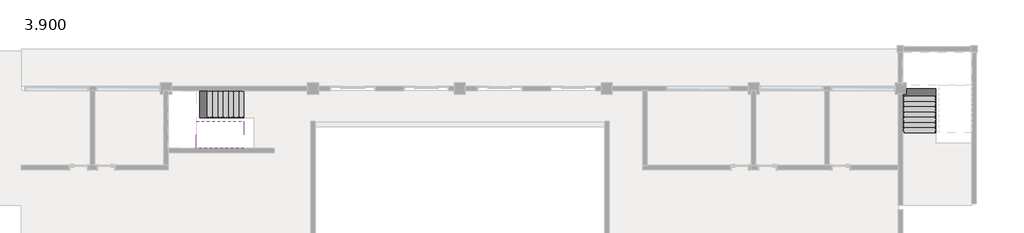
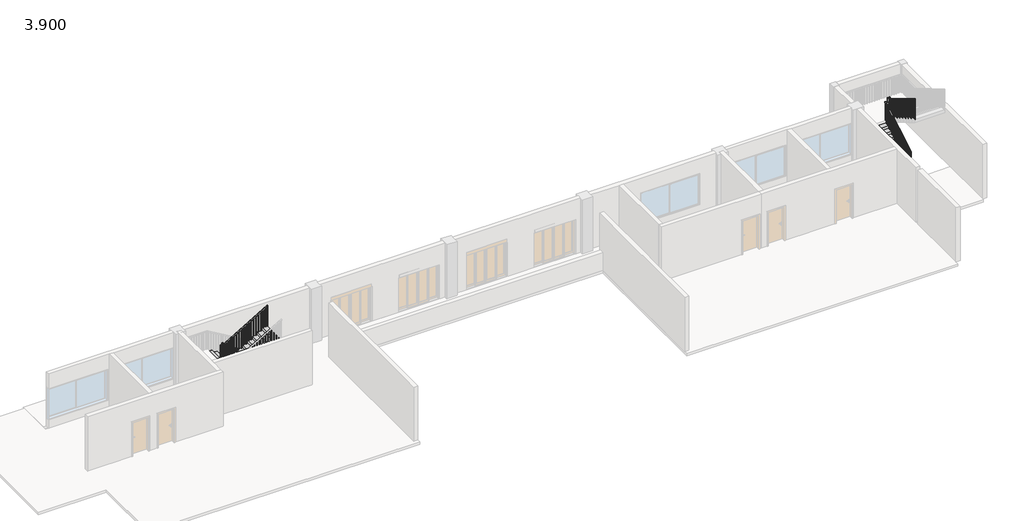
# One storey, part 3 of 4: 3 stair flights, 2 railings.
"""IFC4 building model written with IfcOpenShell, lengths in millimetres."""

from ifc_helpers import new_model, si_unit, frame, origin, place, context, project, spatial, polyline, outline, extrude, faceted_brep, element, save

model = new_model("IFC4")

# Units and contexts
model_context = context("Model", 3, world=origin())
ifc_project = project(units=[si_unit("LENGTHUNIT", "METRE", prefix="MILLI")], contexts=[model_context])

# Site, building, storey
site = spatial("IfcSite", under=ifc_project)
building = spatial("IfcBuilding", under=site)
storey = spatial("IfcBuildingStorey", under=building, Name="3.900", Elevation=3900.0)

# Railings
placement = place(None, origin())
element("IfcRailing", 1, ObjectType="1100mm", at=placement, inside=storey, context=model_context, shape_type="SolidModel", body=[
    faceted_brep([(8272.9890344, 3962.0095817, 5165.0), (8272.9890344, 3962.0095817, 5106.9642857), (8272.9890344, 4012.0095817, 5106.9642857), (8272.9890344, 4012.0095817, 5165.0), (5827.5890344, 3962.0095817, 6606.0392857), (5777.5890344, 3962.0095817, 6577.4678571), (5777.5890344, 4012.0095817, 6577.4678571), (5827.5890344, 4012.0095817, 6606.0392857), (5827.5890344, 3962.0095817, 6650.0), (5777.5890344, 3962.0095817, 6600.0), (5777.5890344, 4012.0095817, 6600.0), (5827.5890344, 4012.0095817, 6650.0), (5752.5890344, 3962.0095817, 6650.0), (5752.5890344, 3962.0095817, 6600.0), (5702.5890344, 4012.0095817, 6600.0), (5702.5890344, 4012.0095817, 6650.0), (5752.5890344, 3887.0095817, 6650.0), (5752.5890344, 3887.0095817, 6600.0), (5702.5890344, 3887.0095817, 6600.0), (5702.5890344, 3887.0095817, 6650.0), (5752.5890344, 3851.2095817, 6650.0), (5752.5890344, 3801.2095817, 6600.0), (5702.5890344, 3801.2095817, 6600.0), (5702.5890344, 3851.2095817, 6650.0), (5752.5890344, 3851.2095817, 6858.9607143), (5752.5890344, 3801.2095817, 6808.9607143), (5702.5890344, 3801.2095817, 6808.9607143), (5702.5890344, 3851.2095817, 6858.9607143), (5752.5890344, 3776.2095817, 6858.9607143), (5752.5890344, 3776.2095817, 6808.9607143), (5702.5890344, 3726.2095817, 6808.9607143), (5702.5890344, 3726.2095817, 6858.9607143), (5827.5890344, 3776.2095817, 6858.9607143), (5841.225398, 3776.2095817, 6808.9607143), (5841.225398, 3726.2095817, 6808.9607143), (5827.5890344, 3726.2095817, 6858.9607143), (8272.9890344, 3776.2095817, 8300.0), (8272.9890344, 3726.2095817, 8300.0), (8272.9890344, 3726.2095817, 8241.9642857), (8272.9890344, 3776.2095817, 8241.9642857)], [[[0, 1, 2, 3]], [[1, 0, 4, 5]], [[2, 1, 5, 6]], [[3, 2, 6, 7]], [[0, 3, 7, 4]], [[5, 4, 8, 9]], [[6, 5, 9, 10]], [[7, 6, 10, 11]], [[4, 7, 11, 8]], [[9, 8, 12, 13]], [[10, 9, 13, 14]], [[11, 10, 14, 15]], [[8, 11, 15, 12]], [[13, 12, 16, 17]], [[14, 13, 17, 18]], [[15, 14, 18, 19]], [[12, 15, 19, 16]], [[17, 16, 20, 21]], [[18, 17, 21, 22]], [[19, 18, 22, 23]], [[16, 19, 23, 20]], [[21, 20, 24, 25]], [[22, 21, 25, 26]], [[23, 22, 26, 27]], [[20, 23, 27, 24]], [[25, 24, 28, 29]], [[26, 25, 29, 30]], [[27, 26, 30, 31]], [[24, 27, 31, 28]], [[29, 28, 32, 33]], [[30, 29, 33, 34]], [[31, 30, 34, 35]], [[28, 31, 35, 32]], [[36, 37, 38, 39]], [[33, 32, 36, 39]], [[34, 33, 39, 38]], [[35, 34, 38, 37]], [[32, 35, 37, 36]]]),
    extrude(outline(polyline([(7035.0, 8165.0890344), (7035.0, 8190.0890344), (8193.1125, 8190.0890344), (8178.3803571, 8165.0890344), (7035.0, 8165.0890344)])), frame((0.0, 3738.7095817, 0.0), z_axis=(0.0, 1.0, 0.0), x_axis=(0.0, 0.0, 1.0)), (0.0, 0.0, 1.0), 25.0),
    extrude(outline(polyline([(7035.0, 8025.0890344), (7035.0, 8050.0890344), (8110.6125, 8050.0890344), (8095.8803571, 8025.0890344), (7035.0, 8025.0890344)])), frame((0.0, 3738.7095817, 0.0), z_axis=(0.0, 1.0, 0.0), x_axis=(0.0, 0.0, 1.0)), (0.0, 0.0, 1.0), 25.0),
    extrude(outline(polyline([(6870.0, 7885.0890344), (6870.0, 7910.0890344), (8028.1125, 7910.0890344), (8013.3803571, 7885.0890344), (6870.0, 7885.0890344)])), frame((0.0, 3738.7095817, 0.0), z_axis=(0.0, 1.0, 0.0), x_axis=(0.0, 0.0, 1.0)), (0.0, 0.0, 1.0), 25.0),
    extrude(outline(polyline([(6870.0, 7745.0890344), (6870.0, 7770.0890344), (7945.6125, 7770.0890344), (7930.8803571, 7745.0890344), (6870.0, 7745.0890344)])), frame((0.0, 3738.7095817, 0.0), z_axis=(0.0, 1.0, 0.0), x_axis=(0.0, 0.0, 1.0)), (0.0, 0.0, 1.0), 25.0),
    extrude(outline(polyline([(6705.0, 7605.0890344), (6705.0, 7630.0890344), (7863.1125, 7630.0890344), (7848.3803571, 7605.0890344), (6705.0, 7605.0890344)])), frame((0.0, 3738.7095817, 0.0), z_axis=(0.0, 1.0, 0.0), x_axis=(0.0, 0.0, 1.0)), (0.0, 0.0, 1.0), 25.0),
    extrude(outline(polyline([(6705.0, 7465.0890344), (6705.0, 7490.0890344), (7780.6125, 7490.0890344), (7765.8803571, 7465.0890344), (6705.0, 7465.0890344)])), frame((0.0, 3738.7095817, 0.0), z_axis=(0.0, 1.0, 0.0), x_axis=(0.0, 0.0, 1.0)), (0.0, 0.0, 1.0), 25.0),
    extrude(outline(polyline([(6540.0, 7325.0890344), (6540.0, 7350.0890344), (7698.1125, 7350.0890344), (7683.3803571, 7325.0890344), (6540.0, 7325.0890344)])), frame((0.0, 3738.7095817, 0.0), z_axis=(0.0, 1.0, 0.0), x_axis=(0.0, 0.0, 1.0)), (0.0, 0.0, 1.0), 25.0),
    extrude(outline(polyline([(6540.0, 7185.0890344), (6540.0, 7210.0890344), (7615.6125, 7210.0890344), (7600.8803571, 7185.0890344), (6540.0, 7185.0890344)])), frame((0.0, 3738.7095817, 0.0), z_axis=(0.0, 1.0, 0.0), x_axis=(0.0, 0.0, 1.0)), (0.0, 0.0, 1.0), 25.0),
    extrude(outline(polyline([(6375.0, 7045.0890344), (6375.0, 7070.0890344), (7533.1125, 7070.0890344), (7518.3803571, 7045.0890344), (6375.0, 7045.0890344)])), frame((0.0, 3738.7095817, 0.0), z_axis=(0.0, 1.0, 0.0), x_axis=(0.0, 0.0, 1.0)), (0.0, 0.0, 1.0), 25.0),
    extrude(outline(polyline([(6375.0, 6905.0890344), (6375.0, 6930.0890344), (7450.6125, 6930.0890344), (7435.8803571, 6905.0890344), (6375.0, 6905.0890344)])), frame((0.0, 3738.7095817, 0.0), z_axis=(0.0, 1.0, 0.0), x_axis=(0.0, 0.0, 1.0)), (0.0, 0.0, 1.0), 25.0),
    extrude(outline(polyline([(6210.0, 6765.0890344), (6210.0, 6790.0890344), (7368.1125, 6790.0890344), (7353.3803571, 6765.0890344), (6210.0, 6765.0890344)])), frame((0.0, 3738.7095817, 0.0), z_axis=(0.0, 1.0, 0.0), x_axis=(0.0, 0.0, 1.0)), (0.0, 0.0, 1.0), 25.0),
    extrude(outline(polyline([(6210.0, 6625.0890344), (6210.0, 6650.0890344), (7285.6125, 6650.0890344), (7270.8803571, 6625.0890344), (6210.0, 6625.0890344)])), frame((0.0, 3738.7095817, 0.0), z_axis=(0.0, 1.0, 0.0), x_axis=(0.0, 0.0, 1.0)), (0.0, 0.0, 1.0), 25.0),
    extrude(outline(polyline([(6045.0, 6485.0890344), (6045.0, 6510.0890344), (7203.1125, 6510.0890344), (7188.3803571, 6485.0890344), (6045.0, 6485.0890344)])), frame((0.0, 3738.7095817, 0.0), z_axis=(0.0, 1.0, 0.0), x_axis=(0.0, 0.0, 1.0)), (0.0, 0.0, 1.0), 25.0),
    extrude(outline(polyline([(6045.0, 6345.0890344), (6045.0, 6370.0890344), (7120.6125, 6370.0890344), (7105.8803571, 6345.0890344), (6045.0, 6345.0890344)])), frame((0.0, 3738.7095817, 0.0), z_axis=(0.0, 1.0, 0.0), x_axis=(0.0, 0.0, 1.0)), (0.0, 0.0, 1.0), 25.0),
    extrude(outline(polyline([(5880.0, 6205.0890344), (5880.0, 6230.0890344), (7038.1125, 6230.0890344), (7023.3803571, 6205.0890344), (5880.0, 6205.0890344)])), frame((0.0, 3738.7095817, 0.0), z_axis=(0.0, 1.0, 0.0), x_axis=(0.0, 0.0, 1.0)), (0.0, 0.0, 1.0), 25.0),
    extrude(outline(polyline([(5880.0, 6065.0890344), (5880.0, 6090.0890344), (6955.6125, 6090.0890344), (6940.8803571, 6065.0890344), (5880.0, 6065.0890344)])), frame((0.0, 3738.7095817, 0.0), z_axis=(0.0, 1.0, 0.0), x_axis=(0.0, 0.0, 1.0)), (0.0, 0.0, 1.0), 25.0),
    extrude(outline(polyline([(5715.0, 5925.0890344), (5715.0, 5950.0890344), (6873.1125, 5950.0890344), (6858.3803571, 5925.0890344), (5715.0, 5925.0890344)])), frame((0.0, 3738.7095817, 0.0), z_axis=(0.0, 1.0, 0.0), x_axis=(0.0, 0.0, 1.0)), (0.0, 0.0, 1.0), 25.0),
    extrude(outline(polyline([(5785.0890344, 3763.7095817), (5810.0890344, 3763.7095817), (5810.0890344, 3738.7095817), (5785.0890344, 3738.7095817), (5785.0890344, 3763.7095817)])), frame((0.0, 0.0, 5715.0), z_axis=(0.0, 0.0, 1.0), x_axis=(1.0, 0.0, 0.0)), (0.0, 0.0, 1.0), 1093.9607143),
    extrude(outline(polyline([(5740.0890344, 3789.5095817), (5740.0890344, 3764.5095817), (5715.0890344, 3764.5095817), (5715.0890344, 3789.5095817), (5740.0890344, 3789.5095817)])), frame((0.0, 0.0, 5550.0), z_axis=(0.0, 0.0, 1.0), x_axis=(1.0, 0.0, 0.0)), (0.0, 0.0, 1.0), 1258.9607143),
    extrude(outline(polyline([(5740.0890344, 3929.5095817), (5740.0890344, 3904.5095817), (5715.0890344, 3904.5095817), (5715.0890344, 3929.5095817), (5740.0890344, 3929.5095817)])), frame((0.0, 0.0, 5550.0), z_axis=(0.0, 0.0, 1.0), x_axis=(1.0, 0.0, 0.0)), (0.0, 0.0, 1.0), 1050.0),
    extrude(outline(polyline([(5835.4890344, 3974.5095817), (5810.4890344, 3974.5095817), (5810.4890344, 3999.5095817), (5835.4890344, 3999.5095817), (5835.4890344, 3974.5095817)])), frame((0.0, 0.0, 5385.0), z_axis=(0.0, 0.0, 1.0), x_axis=(1.0, 0.0, 0.0)), (0.0, 0.0, 1.0), 1215.0),
    extrude(outline(polyline([(6460.8482143, 5975.4890344), (6475.5803571, 5950.4890344), (5385.0, 5950.4890344), (5385.0, 5975.4890344), (6460.8482143, 5975.4890344)])), frame((0.0, 3974.5095817, 0.0), z_axis=(0.0, 1.0, 0.0), x_axis=(0.0, 0.0, 1.0)), (0.0, 0.0, 1.0), 25.0),
    extrude(outline(polyline([(6378.3482143, 6115.4890344), (6393.0803571, 6090.4890344), (5220.0, 6090.4890344), (5220.0, 6115.4890344), (6378.3482143, 6115.4890344)])), frame((0.0, 3974.5095817, 0.0), z_axis=(0.0, 1.0, 0.0), x_axis=(0.0, 0.0, 1.0)), (0.0, 0.0, 1.0), 25.0),
    extrude(outline(polyline([(6295.8482143, 6255.4890344), (6310.5803571, 6230.4890344), (5220.0, 6230.4890344), (5220.0, 6255.4890344), (6295.8482143, 6255.4890344)])), frame((0.0, 3974.5095817, 0.0), z_axis=(0.0, 1.0, 0.0), x_axis=(0.0, 0.0, 1.0)), (0.0, 0.0, 1.0), 25.0),
    extrude(outline(polyline([(6213.3482143, 6395.4890344), (6228.0803571, 6370.4890344), (5055.0, 6370.4890344), (5055.0, 6395.4890344), (6213.3482143, 6395.4890344)])), frame((0.0, 3974.5095817, 0.0), z_axis=(0.0, 1.0, 0.0), x_axis=(0.0, 0.0, 1.0)), (0.0, 0.0, 1.0), 25.0),
    extrude(outline(polyline([(6130.8482143, 6535.4890344), (6145.5803571, 6510.4890344), (5055.0, 6510.4890344), (5055.0, 6535.4890344), (6130.8482143, 6535.4890344)])), frame((0.0, 3974.5095817, 0.0), z_axis=(0.0, 1.0, 0.0), x_axis=(0.0, 0.0, 1.0)), (0.0, 0.0, 1.0), 25.0),
    extrude(outline(polyline([(6048.3482143, 6675.4890344), (6063.0803571, 6650.4890344), (4890.0, 6650.4890344), (4890.0, 6675.4890344), (6048.3482143, 6675.4890344)])), frame((0.0, 3974.5095817, 0.0), z_axis=(0.0, 1.0, 0.0), x_axis=(0.0, 0.0, 1.0)), (0.0, 0.0, 1.0), 25.0),
    extrude(outline(polyline([(5965.8482143, 6815.4890344), (5980.5803571, 6790.4890344), (4890.0, 6790.4890344), (4890.0, 6815.4890344), (5965.8482143, 6815.4890344)])), frame((0.0, 3974.5095817, 0.0), z_axis=(0.0, 1.0, 0.0), x_axis=(0.0, 0.0, 1.0)), (0.0, 0.0, 1.0), 25.0),
    extrude(outline(polyline([(5883.3482143, 6955.4890344), (5898.0803571, 6930.4890344), (4725.0, 6930.4890344), (4725.0, 6955.4890344), (5883.3482143, 6955.4890344)])), frame((0.0, 3974.5095817, 0.0), z_axis=(0.0, 1.0, 0.0), x_axis=(0.0, 0.0, 1.0)), (0.0, 0.0, 1.0), 25.0),
    extrude(outline(polyline([(5800.8482143, 7095.4890344), (5815.5803571, 7070.4890344), (4725.0, 7070.4890344), (4725.0, 7095.4890344), (5800.8482143, 7095.4890344)])), frame((0.0, 3974.5095817, 0.0), z_axis=(0.0, 1.0, 0.0), x_axis=(0.0, 0.0, 1.0)), (0.0, 0.0, 1.0), 25.0),
    extrude(outline(polyline([(5718.3482143, 7235.4890344), (5733.0803571, 7210.4890344), (4560.0, 7210.4890344), (4560.0, 7235.4890344), (5718.3482143, 7235.4890344)])), frame((0.0, 3974.5095817, 0.0), z_axis=(0.0, 1.0, 0.0), x_axis=(0.0, 0.0, 1.0)), (0.0, 0.0, 1.0), 25.0),
    extrude(outline(polyline([(5635.8482143, 7375.4890344), (5650.5803571, 7350.4890344), (4560.0, 7350.4890344), (4560.0, 7375.4890344), (5635.8482143, 7375.4890344)])), frame((0.0, 3974.5095817, 0.0), z_axis=(0.0, 1.0, 0.0), x_axis=(0.0, 0.0, 1.0)), (0.0, 0.0, 1.0), 25.0),
    extrude(outline(polyline([(5553.3482143, 7515.4890344), (5568.0803571, 7490.4890344), (4395.0, 7490.4890344), (4395.0, 7515.4890344), (5553.3482143, 7515.4890344)])), frame((0.0, 3974.5095817, 0.0), z_axis=(0.0, 1.0, 0.0), x_axis=(0.0, 0.0, 1.0)), (0.0, 0.0, 1.0), 25.0),
    extrude(outline(polyline([(5470.8482143, 7655.4890344), (5485.5803571, 7630.4890344), (4395.0, 7630.4890344), (4395.0, 7655.4890344), (5470.8482143, 7655.4890344)])), frame((0.0, 3974.5095817, 0.0), z_axis=(0.0, 1.0, 0.0), x_axis=(0.0, 0.0, 1.0)), (0.0, 0.0, 1.0), 25.0),
    extrude(outline(polyline([(5388.3482143, 7795.4890344), (5403.0803571, 7770.4890344), (4230.0, 7770.4890344), (4230.0, 7795.4890344), (5388.3482143, 7795.4890344)])), frame((0.0, 3974.5095817, 0.0), z_axis=(0.0, 1.0, 0.0), x_axis=(0.0, 0.0, 1.0)), (0.0, 0.0, 1.0), 25.0),
    extrude(outline(polyline([(5305.8482143, 7935.4890344), (5320.5803571, 7910.4890344), (4230.0, 7910.4890344), (4230.0, 7935.4890344), (5305.8482143, 7935.4890344)])), frame((0.0, 3974.5095817, 0.0), z_axis=(0.0, 1.0, 0.0), x_axis=(0.0, 0.0, 1.0)), (0.0, 0.0, 1.0), 25.0),
    extrude(outline(polyline([(5223.3482143, 8075.4890344), (5238.0803571, 8050.4890344), (4065.0, 8050.4890344), (4065.0, 8075.4890344), (5223.3482143, 8075.4890344)])), frame((0.0, 3974.5095817, 0.0), z_axis=(0.0, 1.0, 0.0), x_axis=(0.0, 0.0, 1.0)), (0.0, 0.0, 1.0), 25.0),
    extrude(outline(polyline([(5140.8482143, 8215.4890344), (5155.5803571, 8190.4890344), (4065.0, 8190.4890344), (4065.0, 8215.4890344), (5140.8482143, 8215.4890344)])), frame((0.0, 3974.5095817, 0.0), z_axis=(0.0, 1.0, 0.0), x_axis=(0.0, 0.0, 1.0)), (0.0, 0.0, 1.0), 25.0),
    extrude(outline(polyline([(5740.0890344, 3763.7095817), (5740.0890344, 3738.7095817), (5715.0890344, 3738.7095817), (5715.0890344, 3763.7095817), (5740.0890344, 3763.7095817)])), frame((0.0, 0.0, 5550.0), z_axis=(0.0, 0.0, 1.0), x_axis=(1.0, 0.0, 0.0)), (0.0, 0.0, 1.0), 1258.9607143),
    extrude(outline(polyline([(5740.0890344, 3974.5095817), (5715.0890344, 3974.5095817), (5715.0890344, 3999.5095817), (5740.0890344, 3999.5095817), (5740.0890344, 3974.5095817)])), frame((0.0, 0.0, 5550.0), z_axis=(0.0, 0.0, 1.0), x_axis=(1.0, 0.0, 0.0)), (0.0, 0.0, 1.0), 1050.0),
    extrude(outline(polyline([(7035.0, 8247.9890344), (7035.0, 8272.9890344), (8241.9642857, 8272.9890344), (8227.2321429, 8247.9890344), (7035.0, 8247.9890344)])), frame((0.0, 3738.7095817, 0.0), z_axis=(0.0, 1.0, 0.0), x_axis=(0.0, 0.0, 1.0)), (0.0, 0.0, 1.0), 25.0),
    extrude(outline(polyline([(5106.9642857, 8272.9890344), (5121.6964286, 8247.9890344), (4065.0, 8247.9890344), (4065.0, 8272.9890344), (5106.9642857, 8272.9890344)])), frame((0.0, 3974.5095817, 0.0), z_axis=(0.0, 1.0, 0.0), x_axis=(0.0, 0.0, 1.0)), (0.0, 0.0, 1.0), 25.0),
])
element("IfcRailing", 2, ObjectType="1100mm", at=placement, inside=storey, context=model_context, shape_type="SolidModel", body=[
    faceted_brep([(44942.5890344, 3176.6095817, 5165.0), (44942.5890344, 3176.6095817, 5106.9642857), (44992.5890344, 3176.6095817, 5106.9642857), (44992.5890344, 3176.6095817, 5165.0), (44942.5890344, 5622.0095817, 6606.0392857), (44942.5890344, 5672.0095817, 6577.4678571), (44992.5890344, 5672.0095817, 6577.4678571), (44992.5890344, 5622.0095817, 6606.0392857), (44942.5890344, 5622.0095817, 6650.0), (44942.5890344, 5672.0095817, 6600.0), (44992.5890344, 5672.0095817, 6600.0), (44992.5890344, 5622.0095817, 6650.0), (44942.5890344, 5747.0095817, 6650.0), (44942.5890344, 5747.0095817, 6600.0), (44992.5890344, 5697.0095817, 6600.0), (44992.5890344, 5697.0095817, 6650.0), (45067.5890344, 5747.0095817, 6650.0), (45067.5890344, 5747.0095817, 6600.0), (45067.5890344, 5697.0095817, 6600.0), (45067.5890344, 5697.0095817, 6650.0), (45098.3890344, 5747.0095817, 6650.0), (45148.3890344, 5747.0095817, 6600.0), (45148.3890344, 5697.0095817, 6600.0), (45098.3890344, 5697.0095817, 6650.0), (45098.3890344, 5747.0095817, 6858.9607143), (45148.3890344, 5747.0095817, 6808.9607143), (45148.3890344, 5697.0095817, 6808.9607143), (45098.3890344, 5697.0095817, 6858.9607143), (45223.3890344, 5747.0095817, 6858.9607143), (45223.3890344, 5747.0095817, 6808.9607143), (45173.3890344, 5697.0095817, 6808.9607143), (45173.3890344, 5697.0095817, 6858.9607143), (45223.3890344, 5622.0095817, 6858.9607143), (45223.3890344, 5608.3732181, 6808.9607143), (45173.3890344, 5608.3732181, 6808.9607143), (45173.3890344, 5622.0095817, 6858.9607143), (45223.3890344, 3176.6095817, 8300.0), (45173.3890344, 3176.6095817, 8300.0), (45173.3890344, 3176.6095817, 8241.9642857), (45223.3890344, 3176.6095817, 8241.9642857)], [[[0, 1, 2, 3]], [[1, 0, 4, 5]], [[2, 1, 5, 6]], [[3, 2, 6, 7]], [[0, 3, 7, 4]], [[5, 4, 8, 9]], [[6, 5, 9, 10]], [[7, 6, 10, 11]], [[4, 7, 11, 8]], [[9, 8, 12, 13]], [[10, 9, 13, 14]], [[11, 10, 14, 15]], [[8, 11, 15, 12]], [[13, 12, 16, 17]], [[14, 13, 17, 18]], [[15, 14, 18, 19]], [[12, 15, 19, 16]], [[17, 16, 20, 21]], [[18, 17, 21, 22]], [[19, 18, 22, 23]], [[16, 19, 23, 20]], [[21, 20, 24, 25]], [[22, 21, 25, 26]], [[23, 22, 26, 27]], [[20, 23, 27, 24]], [[25, 24, 28, 29]], [[26, 25, 29, 30]], [[27, 26, 30, 31]], [[24, 27, 31, 28]], [[29, 28, 32, 33]], [[30, 29, 33, 34]], [[31, 30, 34, 35]], [[28, 31, 35, 32]], [[36, 37, 38, 39]], [[33, 32, 36, 39]], [[34, 33, 39, 38]], [[35, 34, 38, 37]], [[32, 35, 37, 36]]]),
    extrude(outline(polyline([(3284.5095817, 8178.3803571), (3284.5095817, 7035.0), (3259.5095817, 7035.0), (3259.5095817, 8193.1125), (3284.5095817, 8178.3803571)])), frame((45185.8890344, 0.0, 0.0), z_axis=(1.0, 0.0, 0.0), x_axis=(0.0, 1.0, 0.0)), (0.0, 0.0, 1.0), 25.0),
    extrude(outline(polyline([(3424.5095817, 8095.8803571), (3424.5095817, 7035.0), (3399.5095817, 7035.0), (3399.5095817, 8110.6125), (3424.5095817, 8095.8803571)])), frame((45185.8890344, 0.0, 0.0), z_axis=(1.0, 0.0, 0.0), x_axis=(0.0, 1.0, 0.0)), (0.0, 0.0, 1.0), 25.0),
    extrude(outline(polyline([(3564.5095817, 8013.3803571), (3564.5095817, 6870.0), (3539.5095817, 6870.0), (3539.5095817, 8028.1125), (3564.5095817, 8013.3803571)])), frame((45185.8890344, 0.0, 0.0), z_axis=(1.0, 0.0, 0.0), x_axis=(0.0, 1.0, 0.0)), (0.0, 0.0, 1.0), 25.0),
    extrude(outline(polyline([(3704.5095817, 7930.8803571), (3704.5095817, 6870.0), (3679.5095817, 6870.0), (3679.5095817, 7945.6125), (3704.5095817, 7930.8803571)])), frame((45185.8890344, 0.0, 0.0), z_axis=(1.0, 0.0, 0.0), x_axis=(0.0, 1.0, 0.0)), (0.0, 0.0, 1.0), 25.0),
    extrude(outline(polyline([(3844.5095817, 7848.3803571), (3844.5095817, 6705.0), (3819.5095817, 6705.0), (3819.5095817, 7863.1125), (3844.5095817, 7848.3803571)])), frame((45185.8890344, 0.0, 0.0), z_axis=(1.0, 0.0, 0.0), x_axis=(0.0, 1.0, 0.0)), (0.0, 0.0, 1.0), 25.0),
    extrude(outline(polyline([(3984.5095817, 7765.8803571), (3984.5095817, 6705.0), (3959.5095817, 6705.0), (3959.5095817, 7780.6125), (3984.5095817, 7765.8803571)])), frame((45185.8890344, 0.0, 0.0), z_axis=(1.0, 0.0, 0.0), x_axis=(0.0, 1.0, 0.0)), (0.0, 0.0, 1.0), 25.0),
    extrude(outline(polyline([(4124.5095817, 7683.3803571), (4124.5095817, 6540.0), (4099.5095817, 6540.0), (4099.5095817, 7698.1125), (4124.5095817, 7683.3803571)])), frame((45185.8890344, 0.0, 0.0), z_axis=(1.0, 0.0, 0.0), x_axis=(0.0, 1.0, 0.0)), (0.0, 0.0, 1.0), 25.0),
    extrude(outline(polyline([(4264.5095817, 7600.8803571), (4264.5095817, 6540.0), (4239.5095817, 6540.0), (4239.5095817, 7615.6125), (4264.5095817, 7600.8803571)])), frame((45185.8890344, 0.0, 0.0), z_axis=(1.0, 0.0, 0.0), x_axis=(0.0, 1.0, 0.0)), (0.0, 0.0, 1.0), 25.0),
    extrude(outline(polyline([(4404.5095817, 7518.3803571), (4404.5095817, 6375.0), (4379.5095817, 6375.0), (4379.5095817, 7533.1125), (4404.5095817, 7518.3803571)])), frame((45185.8890344, 0.0, 0.0), z_axis=(1.0, 0.0, 0.0), x_axis=(0.0, 1.0, 0.0)), (0.0, 0.0, 1.0), 25.0),
    extrude(outline(polyline([(4544.5095817, 7435.8803571), (4544.5095817, 6375.0), (4519.5095817, 6375.0), (4519.5095817, 7450.6125), (4544.5095817, 7435.8803571)])), frame((45185.8890344, 0.0, 0.0), z_axis=(1.0, 0.0, 0.0), x_axis=(0.0, 1.0, 0.0)), (0.0, 0.0, 1.0), 25.0),
    extrude(outline(polyline([(4684.5095817, 7353.3803571), (4684.5095817, 6210.0), (4659.5095817, 6210.0), (4659.5095817, 7368.1125), (4684.5095817, 7353.3803571)])), frame((45185.8890344, 0.0, 0.0), z_axis=(1.0, 0.0, 0.0), x_axis=(0.0, 1.0, 0.0)), (0.0, 0.0, 1.0), 25.0),
    extrude(outline(polyline([(4824.5095817, 7270.8803571), (4824.5095817, 6210.0), (4799.5095817, 6210.0), (4799.5095817, 7285.6125), (4824.5095817, 7270.8803571)])), frame((45185.8890344, 0.0, 0.0), z_axis=(1.0, 0.0, 0.0), x_axis=(0.0, 1.0, 0.0)), (0.0, 0.0, 1.0), 25.0),
    extrude(outline(polyline([(4964.5095817, 7188.3803571), (4964.5095817, 6045.0), (4939.5095817, 6045.0), (4939.5095817, 7203.1125), (4964.5095817, 7188.3803571)])), frame((45185.8890344, 0.0, 0.0), z_axis=(1.0, 0.0, 0.0), x_axis=(0.0, 1.0, 0.0)), (0.0, 0.0, 1.0), 25.0),
    extrude(outline(polyline([(5104.5095817, 7105.8803571), (5104.5095817, 6045.0), (5079.5095817, 6045.0), (5079.5095817, 7120.6125), (5104.5095817, 7105.8803571)])), frame((45185.8890344, 0.0, 0.0), z_axis=(1.0, 0.0, 0.0), x_axis=(0.0, 1.0, 0.0)), (0.0, 0.0, 1.0), 25.0),
    extrude(outline(polyline([(5244.5095817, 7023.3803571), (5244.5095817, 5880.0), (5219.5095817, 5880.0), (5219.5095817, 7038.1125), (5244.5095817, 7023.3803571)])), frame((45185.8890344, 0.0, 0.0), z_axis=(1.0, 0.0, 0.0), x_axis=(0.0, 1.0, 0.0)), (0.0, 0.0, 1.0), 25.0),
    extrude(outline(polyline([(5384.5095817, 6940.8803571), (5384.5095817, 5880.0), (5359.5095817, 5880.0), (5359.5095817, 6955.6125), (5384.5095817, 6940.8803571)])), frame((45185.8890344, 0.0, 0.0), z_axis=(1.0, 0.0, 0.0), x_axis=(0.0, 1.0, 0.0)), (0.0, 0.0, 1.0), 25.0),
    extrude(outline(polyline([(5524.5095817, 6858.3803571), (5524.5095817, 5715.0), (5499.5095817, 5715.0), (5499.5095817, 6873.1125), (5524.5095817, 6858.3803571)])), frame((45185.8890344, 0.0, 0.0), z_axis=(1.0, 0.0, 0.0), x_axis=(0.0, 1.0, 0.0)), (0.0, 0.0, 1.0), 25.0),
    extrude(outline(polyline([(45185.8890344, 5664.5095817), (45210.8890344, 5664.5095817), (45210.8890344, 5639.5095817), (45185.8890344, 5639.5095817), (45185.8890344, 5664.5095817)])), frame((0.0, 0.0, 5715.0), z_axis=(0.0, 0.0, 1.0), x_axis=(1.0, 0.0, 0.0)), (0.0, 0.0, 1.0), 1093.9607143),
    extrude(outline(polyline([(45165.0890344, 5709.5095817), (45165.0890344, 5734.5095817), (45190.0890344, 5734.5095817), (45190.0890344, 5709.5095817), (45165.0890344, 5709.5095817)])), frame((0.0, 0.0, 5550.0), z_axis=(0.0, 0.0, 1.0), x_axis=(1.0, 0.0, 0.0)), (0.0, 0.0, 1.0), 1258.9607143),
    extrude(outline(polyline([(45025.0890344, 5709.5095817), (45025.0890344, 5734.5095817), (45050.0890344, 5734.5095817), (45050.0890344, 5709.5095817), (45025.0890344, 5709.5095817)])), frame((0.0, 0.0, 5550.0), z_axis=(0.0, 0.0, 1.0), x_axis=(1.0, 0.0, 0.0)), (0.0, 0.0, 1.0), 1050.0),
    extrude(outline(polyline([(44980.0890344, 5614.1095817), (44955.0890344, 5614.1095817), (44955.0890344, 5639.1095817), (44980.0890344, 5639.1095817), (44980.0890344, 5614.1095817)])), frame((0.0, 0.0, 5385.0), z_axis=(0.0, 0.0, 1.0), x_axis=(1.0, 0.0, 0.0)), (0.0, 0.0, 1.0), 1215.0),
    extrude(outline(polyline([(5474.1095817, 5385.0), (5474.1095817, 6460.8482143), (5499.1095817, 6475.5803571), (5499.1095817, 5385.0), (5474.1095817, 5385.0)])), frame((44955.0890344, 0.0, 0.0), z_axis=(1.0, 0.0, 0.0), x_axis=(0.0, 1.0, 0.0)), (0.0, 0.0, 1.0), 25.0),
    extrude(outline(polyline([(5334.1095817, 5220.0), (5334.1095817, 6378.3482143), (5359.1095817, 6393.0803571), (5359.1095817, 5220.0), (5334.1095817, 5220.0)])), frame((44955.0890344, 0.0, 0.0), z_axis=(1.0, 0.0, 0.0), x_axis=(0.0, 1.0, 0.0)), (0.0, 0.0, 1.0), 25.0),
    extrude(outline(polyline([(5194.1095817, 5220.0), (5194.1095817, 6295.8482143), (5219.1095817, 6310.5803571), (5219.1095817, 5220.0), (5194.1095817, 5220.0)])), frame((44955.0890344, 0.0, 0.0), z_axis=(1.0, 0.0, 0.0), x_axis=(0.0, 1.0, 0.0)), (0.0, 0.0, 1.0), 25.0),
    extrude(outline(polyline([(5054.1095817, 5055.0), (5054.1095817, 6213.3482143), (5079.1095817, 6228.0803571), (5079.1095817, 5055.0), (5054.1095817, 5055.0)])), frame((44955.0890344, 0.0, 0.0), z_axis=(1.0, 0.0, 0.0), x_axis=(0.0, 1.0, 0.0)), (0.0, 0.0, 1.0), 25.0),
    extrude(outline(polyline([(4914.1095817, 5055.0), (4914.1095817, 6130.8482143), (4939.1095817, 6145.5803571), (4939.1095817, 5055.0), (4914.1095817, 5055.0)])), frame((44955.0890344, 0.0, 0.0), z_axis=(1.0, 0.0, 0.0), x_axis=(0.0, 1.0, 0.0)), (0.0, 0.0, 1.0), 25.0),
    extrude(outline(polyline([(4774.1095817, 4890.0), (4774.1095817, 6048.3482143), (4799.1095817, 6063.0803571), (4799.1095817, 4890.0), (4774.1095817, 4890.0)])), frame((44955.0890344, 0.0, 0.0), z_axis=(1.0, 0.0, 0.0), x_axis=(0.0, 1.0, 0.0)), (0.0, 0.0, 1.0), 25.0),
    extrude(outline(polyline([(4634.1095817, 4890.0), (4634.1095817, 5965.8482143), (4659.1095817, 5980.5803571), (4659.1095817, 4890.0), (4634.1095817, 4890.0)])), frame((44955.0890344, 0.0, 0.0), z_axis=(1.0, 0.0, 0.0), x_axis=(0.0, 1.0, 0.0)), (0.0, 0.0, 1.0), 25.0),
    extrude(outline(polyline([(4494.1095817, 4725.0), (4494.1095817, 5883.3482143), (4519.1095817, 5898.0803571), (4519.1095817, 4725.0), (4494.1095817, 4725.0)])), frame((44955.0890344, 0.0, 0.0), z_axis=(1.0, 0.0, 0.0), x_axis=(0.0, 1.0, 0.0)), (0.0, 0.0, 1.0), 25.0),
    extrude(outline(polyline([(4354.1095817, 4725.0), (4354.1095817, 5800.8482143), (4379.1095817, 5815.5803571), (4379.1095817, 4725.0), (4354.1095817, 4725.0)])), frame((44955.0890344, 0.0, 0.0), z_axis=(1.0, 0.0, 0.0), x_axis=(0.0, 1.0, 0.0)), (0.0, 0.0, 1.0), 25.0),
    extrude(outline(polyline([(4214.1095817, 4560.0), (4214.1095817, 5718.3482143), (4239.1095817, 5733.0803571), (4239.1095817, 4560.0), (4214.1095817, 4560.0)])), frame((44955.0890344, 0.0, 0.0), z_axis=(1.0, 0.0, 0.0), x_axis=(0.0, 1.0, 0.0)), (0.0, 0.0, 1.0), 25.0),
    extrude(outline(polyline([(4074.1095817, 4560.0), (4074.1095817, 5635.8482143), (4099.1095817, 5650.5803571), (4099.1095817, 4560.0), (4074.1095817, 4560.0)])), frame((44955.0890344, 0.0, 0.0), z_axis=(1.0, 0.0, 0.0), x_axis=(0.0, 1.0, 0.0)), (0.0, 0.0, 1.0), 25.0),
    extrude(outline(polyline([(3934.1095817, 4395.0), (3934.1095817, 5553.3482143), (3959.1095817, 5568.0803571), (3959.1095817, 4395.0), (3934.1095817, 4395.0)])), frame((44955.0890344, 0.0, 0.0), z_axis=(1.0, 0.0, 0.0), x_axis=(0.0, 1.0, 0.0)), (0.0, 0.0, 1.0), 25.0),
    extrude(outline(polyline([(3794.1095817, 4395.0), (3794.1095817, 5470.8482143), (3819.1095817, 5485.5803571), (3819.1095817, 4395.0), (3794.1095817, 4395.0)])), frame((44955.0890344, 0.0, 0.0), z_axis=(1.0, 0.0, 0.0), x_axis=(0.0, 1.0, 0.0)), (0.0, 0.0, 1.0), 25.0),
    extrude(outline(polyline([(3654.1095817, 4230.0), (3654.1095817, 5388.3482143), (3679.1095817, 5403.0803571), (3679.1095817, 4230.0), (3654.1095817, 4230.0)])), frame((44955.0890344, 0.0, 0.0), z_axis=(1.0, 0.0, 0.0), x_axis=(0.0, 1.0, 0.0)), (0.0, 0.0, 1.0), 25.0),
    extrude(outline(polyline([(3514.1095817, 4230.0), (3514.1095817, 5305.8482143), (3539.1095817, 5320.5803571), (3539.1095817, 4230.0), (3514.1095817, 4230.0)])), frame((44955.0890344, 0.0, 0.0), z_axis=(1.0, 0.0, 0.0), x_axis=(0.0, 1.0, 0.0)), (0.0, 0.0, 1.0), 25.0),
    extrude(outline(polyline([(3374.1095817, 4065.0), (3374.1095817, 5223.3482143), (3399.1095817, 5238.0803571), (3399.1095817, 4065.0), (3374.1095817, 4065.0)])), frame((44955.0890344, 0.0, 0.0), z_axis=(1.0, 0.0, 0.0), x_axis=(0.0, 1.0, 0.0)), (0.0, 0.0, 1.0), 25.0),
    extrude(outline(polyline([(3234.1095817, 4065.0), (3234.1095817, 5140.8482143), (3259.1095817, 5155.5803571), (3259.1095817, 4065.0), (3234.1095817, 4065.0)])), frame((44955.0890344, 0.0, 0.0), z_axis=(1.0, 0.0, 0.0), x_axis=(0.0, 1.0, 0.0)), (0.0, 0.0, 1.0), 25.0),
    extrude(outline(polyline([(45185.8890344, 5709.5095817), (45185.8890344, 5734.5095817), (45210.8890344, 5734.5095817), (45210.8890344, 5709.5095817), (45185.8890344, 5709.5095817)])), frame((0.0, 0.0, 5550.0), z_axis=(0.0, 0.0, 1.0), x_axis=(1.0, 0.0, 0.0)), (0.0, 0.0, 1.0), 1258.9607143),
    extrude(outline(polyline([(44980.0890344, 5709.5095817), (44955.0890344, 5709.5095817), (44955.0890344, 5734.5095817), (44980.0890344, 5734.5095817), (44980.0890344, 5709.5095817)])), frame((0.0, 0.0, 5550.0), z_axis=(0.0, 0.0, 1.0), x_axis=(1.0, 0.0, 0.0)), (0.0, 0.0, 1.0), 1050.0),
    extrude(outline(polyline([(3201.6095817, 8227.2321429), (3201.6095817, 7035.0), (3176.6095817, 7035.0), (3176.6095817, 8241.9642857), (3201.6095817, 8227.2321429)])), frame((45185.8890344, 0.0, 0.0), z_axis=(1.0, 0.0, 0.0), x_axis=(0.0, 1.0, 0.0)), (0.0, 0.0, 1.0), 25.0),
    extrude(outline(polyline([(3176.6095817, 4065.0), (3176.6095817, 5106.9642857), (3201.6095817, 5121.6964286), (3201.6095817, 4065.0), (3176.6095817, 4065.0)])), frame((44955.0890344, 0.0, 0.0), z_axis=(1.0, 0.0, 0.0), x_axis=(0.0, 1.0, 0.0)), (0.0, 0.0, 1.0), 25.0),
])

# Stair flights
element("IfcStairFlight", 3, ObjectType="150mm 结构深度", at=placement, inside=storey, context=model_context, shape_type="Brep", body=[
    faceted_brep([(7992.9890344, 3961.6095817, 4065.0), (8272.9890344, 3961.6095817, 4065.0), (8272.9890344, 5401.6095817, 4065.0), (7992.9890344, 5401.6095817, 4065.0), (7992.9890344, 3961.6095817, 3900.0), (8272.9890344, 3961.6095817, 3900.0), (8272.9890344, 5401.6095817, 3900.0), (7992.9890344, 5401.6095817, 3900.0), (7712.9890344, 3961.6095817, 4230.0), (7992.9890344, 3961.6095817, 4230.0), (7992.9890344, 5401.6095817, 4230.0), (7712.9890344, 5401.6095817, 4230.0), (7712.9890344, 3961.6095817, 4055.8928571), (7977.5344889, 3961.6095817, 3900.0), (7977.5344889, 5401.6095817, 3900.0), (7712.9890344, 5401.6095817, 4055.8928571), (7432.9890344, 3961.6095817, 4395.0), (7712.9890344, 3961.6095817, 4395.0), (7712.9890344, 5401.6095817, 4395.0), (7432.9890344, 5401.6095817, 4395.0), (7432.9890344, 3961.6095817, 4220.8928571), (7432.9890344, 5401.6095817, 4220.8928571), (7152.9890344, 3961.6095817, 4560.0), (7432.9890344, 3961.6095817, 4560.0), (7432.9890344, 5401.6095817, 4560.0), (7152.9890344, 5401.6095817, 4560.0), (7152.9890344, 3961.6095817, 4385.8928571), (7152.9890344, 5401.6095817, 4385.8928571), (6872.9890344, 3961.6095817, 4725.0), (7152.9890344, 3961.6095817, 4725.0), (7152.9890344, 5401.6095817, 4725.0), (6872.9890344, 5401.6095817, 4725.0), (6872.9890344, 3961.6095817, 4550.8928571), (6872.9890344, 5401.6095817, 4550.8928571), (6592.9890344, 3961.6095817, 4890.0), (6872.9890344, 3961.6095817, 4890.0), (6872.9890344, 5401.6095817, 4890.0), (6592.9890344, 5401.6095817, 4890.0), (6592.9890344, 3961.6095817, 4715.8928571), (6592.9890344, 5401.6095817, 4715.8928571), (6312.9890344, 3961.6095817, 5055.0), (6592.9890344, 3961.6095817, 5055.0), (6592.9890344, 5401.6095817, 5055.0), (6312.9890344, 5401.6095817, 5055.0), (6312.9890344, 3961.6095817, 4880.8928571), (6312.9890344, 5401.6095817, 4880.8928571), (6032.9890344, 3961.6095817, 5220.0), (6312.9890344, 3961.6095817, 5220.0), (6312.9890344, 5401.6095817, 5220.0), (6032.9890344, 5401.6095817, 5220.0), (6032.9890344, 3961.6095817, 5045.8928571), (6032.9890344, 5401.6095817, 5045.8928571), (5752.9890344, 3961.6095817, 5385.0), (6032.9890344, 3961.6095817, 5385.0), (6032.9890344, 5401.6095817, 5385.0), (5752.9890344, 5401.6095817, 5385.0), (5752.9890344, 3961.6095817, 5250.0), (5752.9890344, 3961.6095817, 5210.8928571), (5752.9890344, 5401.6095817, 5210.8928571)], [[[0, 1, 2, 3]], [[1, 0, 4, 5]], [[2, 1, 5, 6]], [[3, 2, 6, 7]], [[8, 9, 10, 11]], [[4, 0, 9, 8, 12, 13]], [[0, 3, 10, 9]], [[3, 7, 14, 15, 11, 10]], [[16, 17, 18, 19]], [[17, 16, 20, 12, 8]], [[8, 11, 18, 17]], [[19, 18, 11, 15, 21]], [[22, 23, 24, 25]], [[23, 22, 26, 20, 16]], [[16, 19, 24, 23]], [[25, 24, 19, 21, 27]], [[28, 29, 30, 31]], [[29, 28, 32, 26, 22]], [[22, 25, 30, 29]], [[31, 30, 25, 27, 33]], [[34, 35, 36, 37]], [[35, 34, 38, 32, 28]], [[28, 31, 36, 35]], [[37, 36, 31, 33, 39]], [[40, 41, 42, 43]], [[41, 40, 44, 38, 34]], [[34, 37, 42, 41]], [[43, 42, 37, 39, 45]], [[46, 47, 48, 49]], [[47, 46, 50, 44, 40]], [[40, 43, 48, 47]], [[49, 48, 43, 45, 51]], [[52, 53, 54, 55]], [[53, 52, 56, 57, 50, 46]], [[46, 49, 54, 53]], [[55, 54, 49, 51, 58]], [[52, 55, 58, 57, 56]], [[5, 4, 13, 14, 7, 6]], [[14, 13, 12, 20, 26, 32, 38, 44, 50, 57, 58, 51, 45, 39, 33, 27, 21, 15]]]),
])
element("IfcStairFlight", 4, ObjectType="150mm 结构深度", at=placement, inside=storey, context=model_context, shape_type="Brep", body=[
    faceted_brep([(6032.9890344, 3776.6095817, 5715.0), (5752.9890344, 3776.6095817, 5715.0), (5752.9890344, 2336.6095817, 5715.0), (6032.9890344, 2336.6095817, 5715.0), (6032.9890344, 3776.6095817, 5540.8928571), (5752.9890344, 3776.6095817, 5375.8928571), (5752.9890344, 2336.6095817, 5375.8928571), (5752.9890344, 2336.6095817, 5550.0), (6032.9890344, 2336.6095817, 5540.8928571), (6312.9890344, 3776.6095817, 5880.0), (6032.9890344, 3776.6095817, 5880.0), (6032.9890344, 2336.6095817, 5880.0), (6312.9890344, 2336.6095817, 5880.0), (6312.9890344, 3776.6095817, 5705.8928571), (6312.9890344, 2336.6095817, 5705.8928571), (6592.9890344, 3776.6095817, 6045.0), (6312.9890344, 3776.6095817, 6045.0), (6312.9890344, 2336.6095817, 6045.0), (6592.9890344, 2336.6095817, 6045.0), (6592.9890344, 3776.6095817, 5870.8928571), (6592.9890344, 2336.6095817, 5870.8928571), (6872.9890344, 3776.6095817, 6210.0), (6592.9890344, 3776.6095817, 6210.0), (6592.9890344, 2336.6095817, 6210.0), (6872.9890344, 2336.6095817, 6210.0), (6872.9890344, 3776.6095817, 6035.8928571), (6872.9890344, 2336.6095817, 6035.8928571), (7152.9890344, 3776.6095817, 6375.0), (6872.9890344, 3776.6095817, 6375.0), (6872.9890344, 2336.6095817, 6375.0), (7152.9890344, 2336.6095817, 6375.0), (7152.9890344, 3776.6095817, 6200.8928571), (7152.9890344, 2336.6095817, 6200.8928571), (7432.9890344, 3776.6095817, 6540.0), (7152.9890344, 3776.6095817, 6540.0), (7152.9890344, 2336.6095817, 6540.0), (7432.9890344, 2336.6095817, 6540.0), (7432.9890344, 3776.6095817, 6365.8928571), (7432.9890344, 2336.6095817, 6365.8928571), (7712.9890344, 3776.6095817, 6705.0), (7432.9890344, 3776.6095817, 6705.0), (7432.9890344, 2336.6095817, 6705.0), (7712.9890344, 2336.6095817, 6705.0), (7712.9890344, 3776.6095817, 6530.8928571), (7712.9890344, 2336.6095817, 6530.8928571), (7992.9890344, 3776.6095817, 6870.0), (7712.9890344, 3776.6095817, 6870.0), (7712.9890344, 2336.6095817, 6870.0), (7992.9890344, 2336.6095817, 6870.0), (7992.9890344, 3776.6095817, 6695.8928571), (7992.9890344, 2336.6095817, 6695.8928571), (8272.9890344, 3776.6095817, 7035.0), (7992.9890344, 3776.6095817, 7035.0), (7992.9890344, 2336.6095817, 7035.0), (8272.9890344, 2336.6095817, 7035.0), (8272.9890344, 3776.6095817, 6860.8928571), (8272.9890344, 2336.6095817, 6860.8928571)], [[[0, 1, 2, 3]], [[1, 0, 4, 5]], [[2, 1, 5, 6, 7]], [[3, 2, 7, 6, 8]], [[9, 10, 11, 12]], [[10, 9, 13, 4, 0]], [[11, 10, 0, 3]], [[12, 11, 3, 8, 14]], [[15, 16, 17, 18]], [[16, 15, 19, 13, 9]], [[17, 16, 9, 12]], [[18, 17, 12, 14, 20]], [[21, 22, 23, 24]], [[22, 21, 25, 19, 15]], [[23, 22, 15, 18]], [[24, 23, 18, 20, 26]], [[27, 28, 29, 30]], [[28, 27, 31, 25, 21]], [[29, 28, 21, 24]], [[30, 29, 24, 26, 32]], [[33, 34, 35, 36]], [[34, 33, 37, 31, 27]], [[35, 34, 27, 30]], [[36, 35, 30, 32, 38]], [[39, 40, 41, 42]], [[40, 39, 43, 37, 33]], [[41, 40, 33, 36]], [[42, 41, 36, 38, 44]], [[45, 46, 47, 48]], [[46, 45, 49, 43, 39]], [[47, 46, 39, 42]], [[48, 47, 42, 44, 50]], [[51, 52, 53, 54]], [[52, 51, 55, 49, 45]], [[53, 52, 45, 48]], [[54, 53, 48, 50, 56]], [[51, 54, 56, 55]], [[5, 4, 13, 19, 25, 31, 37, 43, 49, 55, 56, 50, 44, 38, 32, 26, 20, 14, 8, 6]]]),
])
element("IfcStairFlight", 5, ObjectType="150mm 结构深度", at=placement, inside=storey, context=model_context, shape_type="Brep", body=[
    faceted_brep([(43252.9890344, 3456.6095817, 4065.0), (43252.9890344, 3176.6095817, 4065.0), (44992.9890344, 3176.6095817, 4065.0), (44992.9890344, 3456.6095817, 4065.0), (43252.9890344, 3456.6095817, 3900.0), (43252.9890344, 3176.6095817, 3900.0), (44992.9890344, 3176.6095817, 3900.0), (44992.9890344, 3456.6095817, 3900.0), (43252.9890344, 3736.6095817, 4230.0), (43252.9890344, 3456.6095817, 4230.0), (44992.9890344, 3456.6095817, 4230.0), (44992.9890344, 3736.6095817, 4230.0), (43252.9890344, 3736.6095817, 4055.8928571), (43252.9890344, 3472.0641272, 3900.0), (44992.9890344, 3472.0641272, 3900.0), (44992.9890344, 3736.6095817, 4055.8928571), (43252.9890344, 4016.6095817, 4395.0), (43252.9890344, 3736.6095817, 4395.0), (44992.9890344, 3736.6095817, 4395.0), (44992.9890344, 4016.6095817, 4395.0), (43252.9890344, 4016.6095817, 4220.8928571), (44992.9890344, 4016.6095817, 4220.8928571), (43252.9890344, 4296.6095817, 4560.0), (43252.9890344, 4016.6095817, 4560.0), (44992.9890344, 4016.6095817, 4560.0), (44992.9890344, 4296.6095817, 4560.0), (43252.9890344, 4296.6095817, 4385.8928571), (44992.9890344, 4296.6095817, 4385.8928571), (43252.9890344, 4576.6095817, 4725.0), (43252.9890344, 4296.6095817, 4725.0), (44992.9890344, 4296.6095817, 4725.0), (44992.9890344, 4576.6095817, 4725.0), (43252.9890344, 4576.6095817, 4550.8928571), (44992.9890344, 4576.6095817, 4550.8928571), (43252.9890344, 4856.6095817, 4890.0), (43252.9890344, 4576.6095817, 4890.0), (44992.9890344, 4576.6095817, 4890.0), (44992.9890344, 4856.6095817, 4890.0), (43252.9890344, 4856.6095817, 4715.8928571), (44992.9890344, 4856.6095817, 4715.8928571), (43252.9890344, 5136.6095817, 5055.0), (43252.9890344, 4856.6095817, 5055.0), (44992.9890344, 4856.6095817, 5055.0), (44992.9890344, 5136.6095817, 5055.0), (43252.9890344, 5136.6095817, 4880.8928571), (44992.9890344, 5136.6095817, 4880.8928571), (43252.9890344, 5416.6095817, 5220.0), (43252.9890344, 5136.6095817, 5220.0), (44992.9890344, 5136.6095817, 5220.0), (44992.9890344, 5416.6095817, 5220.0), (43252.9890344, 5416.6095817, 5045.8928571), (44992.9890344, 5416.6095817, 5045.8928571), (43252.9890344, 5696.6095817, 5385.0), (43252.9890344, 5416.6095817, 5385.0), (44992.9890344, 5416.6095817, 5385.0), (44992.9890344, 5696.6095817, 5385.0), (43252.9890344, 5696.6095817, 5210.8928571), (44992.9890344, 5696.6095817, 5210.8928571), (44992.9890344, 5696.6095817, 5250.0)], [[[0, 1, 2, 3]], [[1, 0, 4, 5]], [[2, 1, 5, 6]], [[3, 2, 6, 7]], [[8, 9, 10, 11]], [[4, 0, 9, 8, 12, 13]], [[0, 3, 10, 9]], [[3, 7, 14, 15, 11, 10]], [[16, 17, 18, 19]], [[17, 16, 20, 12, 8]], [[8, 11, 18, 17]], [[19, 18, 11, 15, 21]], [[22, 23, 24, 25]], [[23, 22, 26, 20, 16]], [[16, 19, 24, 23]], [[25, 24, 19, 21, 27]], [[28, 29, 30, 31]], [[29, 28, 32, 26, 22]], [[22, 25, 30, 29]], [[31, 30, 25, 27, 33]], [[34, 35, 36, 37]], [[35, 34, 38, 32, 28]], [[28, 31, 36, 35]], [[37, 36, 31, 33, 39]], [[40, 41, 42, 43]], [[41, 40, 44, 38, 34]], [[34, 37, 42, 41]], [[43, 42, 37, 39, 45]], [[46, 47, 48, 49]], [[47, 46, 50, 44, 40]], [[40, 43, 48, 47]], [[49, 48, 43, 45, 51]], [[52, 53, 54, 55]], [[53, 52, 56, 50, 46]], [[46, 49, 54, 53]], [[55, 54, 49, 51, 57, 58]], [[52, 55, 58, 57, 56]], [[5, 4, 13, 14, 7, 6]], [[14, 13, 12, 20, 26, 32, 38, 44, 50, 56, 57, 51, 45, 39, 33, 27, 21, 15]]]),
])

save(model, "model.ifc")
